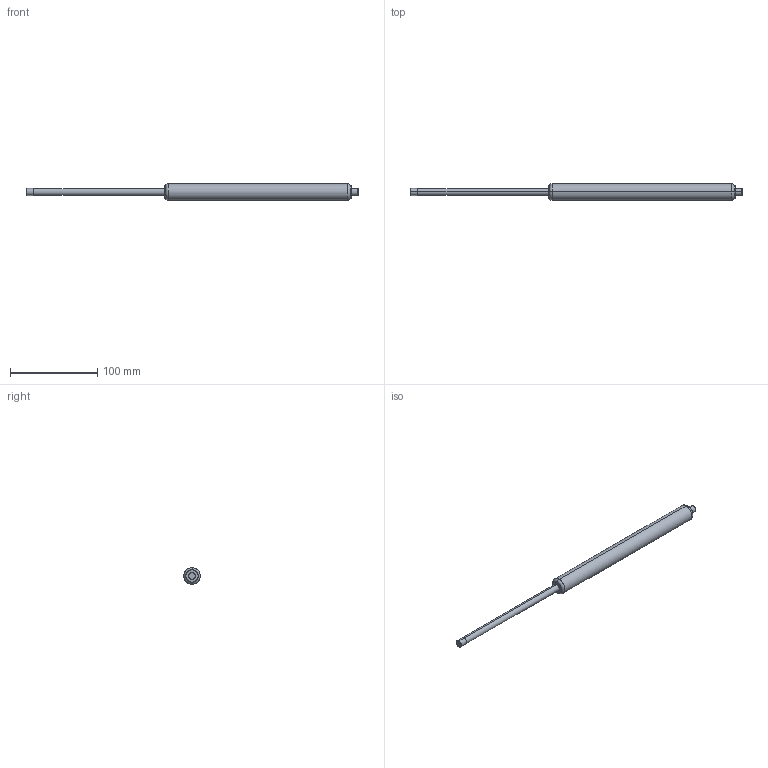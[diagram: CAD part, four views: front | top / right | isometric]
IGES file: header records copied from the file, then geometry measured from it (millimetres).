
Start section: SolidWorks IGES file using analytic representation for surfaces
Bounding box: 381 x 19 x 19 mm (x, y, z)
Surface area: 17342.7 mm2 (no closed solid volume)
Topology: 0 solids, 0 shells, 25 faces, 336 edges, 336 vertices
Faces by surface type: revolution 16, bspline 9
